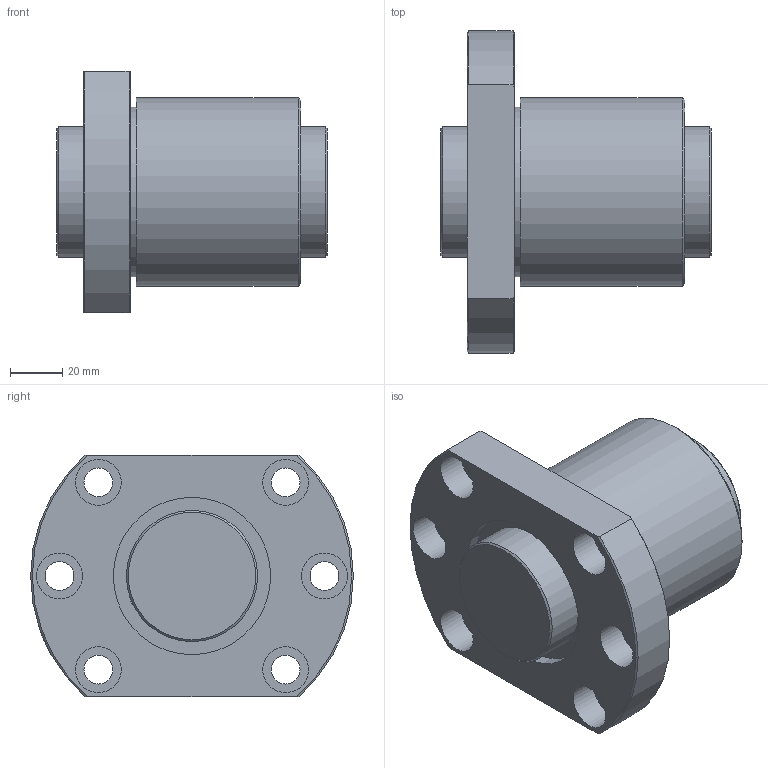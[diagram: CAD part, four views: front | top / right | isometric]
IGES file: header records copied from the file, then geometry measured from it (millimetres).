
Start section: Data from Parasolid IGES Translator 26.0.171, Copyright(c) 2006 Siemens PLM Software. All Rights Reserved.
Global section: file name: DK5010-3RRG1+103LC0_000.igs; native system: By Siemens PLM Incorporated; preprocessor: XPlus GENERIC/IGES 26.0.171; author: Noname; organization: Noname; date: 20250113.092046; units: millimetre
Bounding box: 103 x 123 x 92 mm (x, y, z)
Surface area: 77103.2 mm2 (no closed solid volume)
Topology: 0 solids, 0 shells, 46 faces, 190 edges, 164 vertices
Faces by surface type: revolution 30, extrusion 16
